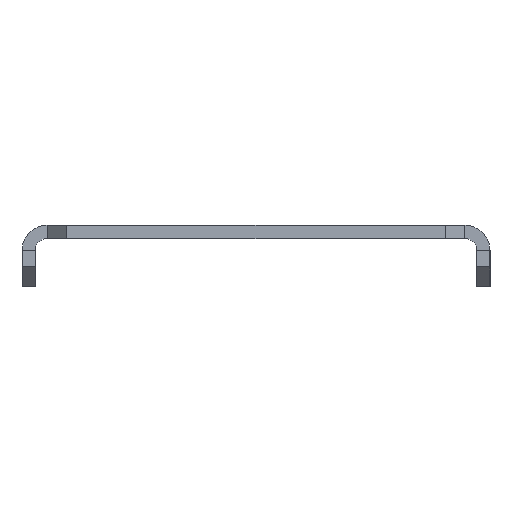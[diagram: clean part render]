
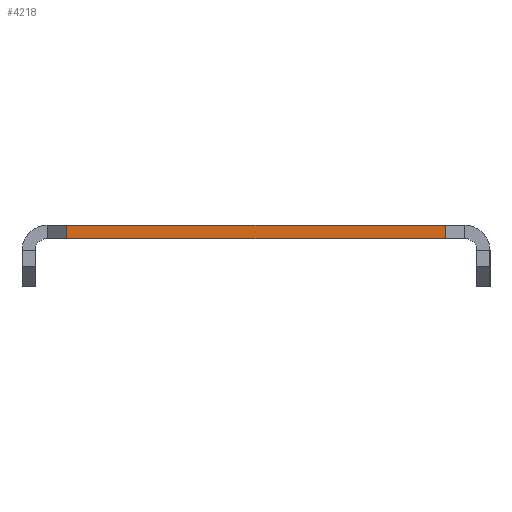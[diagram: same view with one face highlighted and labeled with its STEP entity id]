
A CAD part, left-side view. The second image highlights one B-rep face of the part: STEP entity #4218.
In plain terms, the highlighted planar face has unit normal (-1, 0, 0).
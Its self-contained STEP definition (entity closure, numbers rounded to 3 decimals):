
#554 = DIRECTION ( 'NONE',  ( 0., 1., 0. ) ) ;
#616 = VERTEX_POINT ( 'NONE', #14596 ) ;
#800 = VECTOR ( 'NONE', #10330, 1000. ) ;
#846 = EDGE_CURVE ( 'NONE', #3842, #5476, #15983, .T. ) ;
#985 = EDGE_LOOP ( 'NONE', ( #6371, #1682, #9200, #11673 ) ) ;
#1682 = ORIENTED_EDGE ( 'NONE', *, *, #3489, .T. ) ;
#1798 = LINE ( 'NONE', #1826, #13205 ) ;
#1826 = CARTESIAN_POINT ( 'NONE',  ( -287.5, 31.655, 0. ) ) ;
#2647 = CARTESIAN_POINT ( 'NONE',  ( -287.5, 28.655, 0. ) ) ;
#3489 = EDGE_CURVE ( 'NONE', #616, #7248, #7246, .T. ) ;
#3664 = CARTESIAN_POINT ( 'NONE',  ( -287.5, 31.655, 2. ) ) ;
#3842 = VERTEX_POINT ( 'NONE', #10026 ) ;
#4218 = ADVANCED_FACE ( 'NONE', ( #14451 ), #10760, .F. ) ;
#5476 = VERTEX_POINT ( 'NONE', #2647 ) ;
#5571 = AXIS2_PLACEMENT_3D ( 'NONE', #9471, #10812, #12158 ) ;
#6371 = ORIENTED_EDGE ( 'NONE', *, *, #14017, .F. ) ;
#7086 = VECTOR ( 'NONE', #17212, 1000. ) ;
#7246 = LINE ( 'NONE', #11828, #800 ) ;
#7248 = VERTEX_POINT ( 'NONE', #9782 ) ;
#9200 = ORIENTED_EDGE ( 'NONE', *, *, #12590, .T. ) ;
#9471 = CARTESIAN_POINT ( 'NONE',  ( -287.5, 31.655, 0. ) ) ;
#9782 = CARTESIAN_POINT ( 'NONE',  ( -287.5, -28.655, 2. ) ) ;
#10026 = CARTESIAN_POINT ( 'NONE',  ( -287.5, 28.655, 2. ) ) ;
#10330 = DIRECTION ( 'NONE',  ( 0., 0., 1. ) ) ;
#10760 = PLANE ( 'NONE',  #5571 ) ;
#10812 = DIRECTION ( 'NONE',  ( 1., 0., 0. ) ) ;
#11673 = ORIENTED_EDGE ( 'NONE', *, *, #846, .T. ) ;
#11828 = CARTESIAN_POINT ( 'NONE',  ( -287.5, -28.655, 0. ) ) ;
#11881 = VECTOR ( 'NONE', #16822, 1000. ) ;
#12158 = DIRECTION ( 'NONE',  ( 0., 1., 0. ) ) ;
#12590 = EDGE_CURVE ( 'NONE', #7248, #3842, #14798, .T. ) ;
#13205 = VECTOR ( 'NONE', #554, 1000. ) ;
#14017 = EDGE_CURVE ( 'NONE', #616, #5476, #1798, .T. ) ;
#14451 = FACE_OUTER_BOUND ( 'NONE', #985, .T. ) ;
#14596 = CARTESIAN_POINT ( 'NONE',  ( -287.5, -28.655, 0. ) ) ;
#14798 = LINE ( 'NONE', #3664, #11881 ) ;
#15983 = LINE ( 'NONE', #16975, #7086 ) ;
#16822 = DIRECTION ( 'NONE',  ( 0., 1., 0. ) ) ;
#16975 = CARTESIAN_POINT ( 'NONE',  ( -287.5, 28.655, 0. ) ) ;
#17212 = DIRECTION ( 'NONE',  ( 0., 0., -1. ) ) ;
